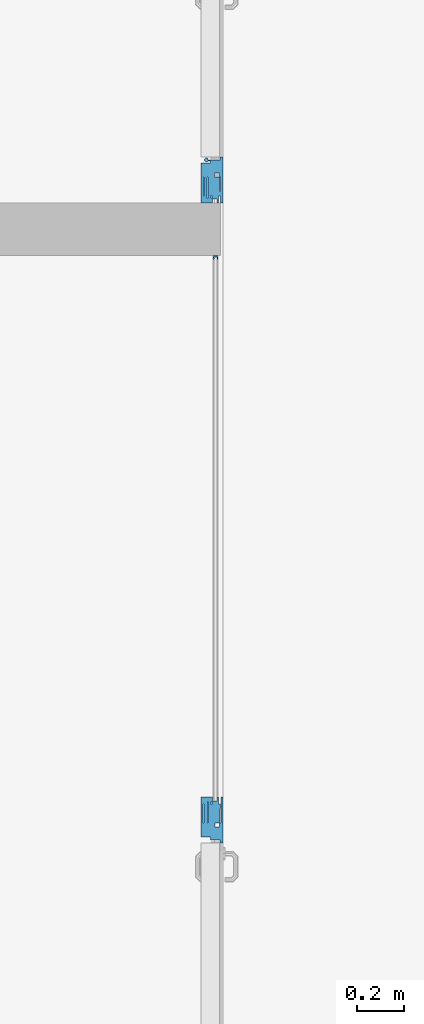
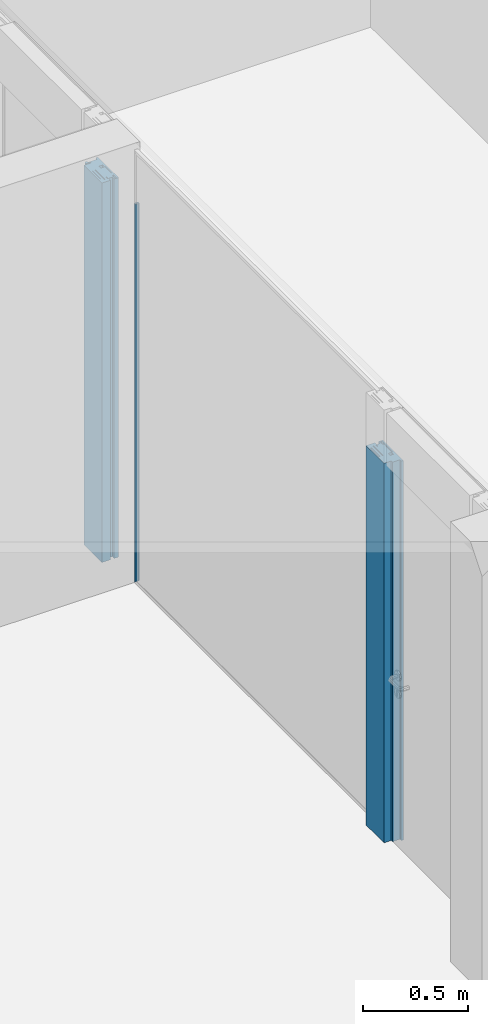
# One storey, part 8 of 79: 3 members, 2 elements without a shape of their own.
"""IFC2X3 building model written with IfcOpenShell, lengths in millimetres."""

import ifcopenshell
import ifcopenshell.guid

model = None  # the IFC model being written
_history = None  # IfcOwnerHistory: only IFC2X3 demands one
_inside = {}  # id of a spatial element -> (the spatial element, [elements in it])
_under = {}  # id of a project, library or spatial element -> (it, [spatial elements below it])
_declared = {}  # id of a project -> (the project, [libraries it declares])
_typed = {}  # id of a type object -> (the type object, [elements of that type])
_made_of = {}  # id of a material, layer set ... -> (it, [elements and type objects made of it])


def new_model(schema):
    """Start an empty IFC model of exactly this schema.

    Asked for "IFC4X3", IfcOpenShell would pick the latest addendum, in which some entities
    have other attributes; the version numbers below select the first issue.
    IFC2X3 requires an IfcOwnerHistory on every rooted entity: one is made here for all.
    """
    global model, _history
    if schema == "IFC4X3":
        model = ifcopenshell.file(schema_version=(4, 3, 0, 0))
    else:
        model = ifcopenshell.file(schema=schema)
    _inside.clear()
    _under.clear()
    _declared.clear()
    _typed.clear()
    _made_of.clear()
    _history = None
    if model.schema == "IFC2X3":
        org = make("IfcOrganization", Name="unknown")
        user = make(
            "IfcPersonAndOrganization",
            ThePerson=make("IfcPerson", FamilyName="unknown"),
            TheOrganization=org,
        )
        app = make(
            "IfcApplication",
            ApplicationDeveloper=org,
            Version="unknown",
            ApplicationFullName="unknown",
            ApplicationIdentifier="unknown",
        )
        _history = make(
            "IfcOwnerHistory",
            OwningUser=user,
            OwningApplication=app,
            ChangeAction="ADDED",
            CreationDate=0,
        )
    return model


def make(cls, **values):
    """One entity of the class cls with the attributes given. An attribute that is None is left unset."""
    return model.create_entity(
        cls, **{name: value for name, value in values.items() if value is not None}
    )


def entity(cls, *values):
    """Any entity or typed value of the class cls, its attributes in the order of the schema. None: left unset."""
    e = model.create_entity(cls)
    for i, value in enumerate(values):
        if value is not None:
            e[i] = value
    return e


def rooted(cls, **values):
    """An entity with a GlobalId (a new one), such as an element, a storey or a relation."""
    return make(cls, GlobalId=ifcopenshell.guid.new(), OwnerHistory=_history, **values)


def si_unit(unit_type, name, prefix=None):
    """IfcSIUnit, for example si_unit("LENGTHUNIT", "METRE", prefix="MILLI")."""
    return make("IfcSIUnit", UnitType=unit_type, Prefix=prefix, Name=name)


def converted_unit(unit_type, name, factor, base, dimensions=None, offset=None):
    """IfcConversionBasedUnit, such as the inch: factor (a typed value) times the base unit."""
    return make(
        "IfcConversionBasedUnit"
        if offset is None
        else "IfcConversionBasedUnitWithOffset",
        ConversionOffset=offset,
        Dimensions=None
        if dimensions is None
        else entity("IfcDimensionalExponents", *dimensions),
        UnitType=unit_type,
        Name=name,
        ConversionFactor=make(
            "IfcMeasureWithUnit", ValueComponent=factor, UnitComponent=base
        ),
    )


def derived_unit(unit_type, elements):
    """IfcDerivedUnit: a product of units, each with its exponent."""
    return make(
        "IfcDerivedUnit",
        Elements=[
            make("IfcDerivedUnitElement", Unit=unit, Exponent=power)
            for unit, power in elements
        ],
        UnitType=unit_type,
    )


def money_unit(currency):
    """IfcMonetaryUnit."""
    return make("IfcMonetaryUnit", Currency=currency)


def assignment(units):
    """IfcUnitAssignment: the units of a project."""
    return None if units is None else make("IfcUnitAssignment", Units=units)


def point(xyz):
    """IfcCartesianPoint."""
    return None if xyz is None else make("IfcCartesianPoint", Coordinates=xyz)


def direction(xyz):
    """IfcDirection."""
    return None if xyz is None else make("IfcDirection", DirectionRatios=xyz)


def frame(location, z_axis=None, x_axis=None):
    """IfcAxis2Placement3D, a coordinate frame: its origin and axes. An axis left out is left unset."""
    return make(
        "IfcAxis2Placement3D",
        Location=point(location),
        Axis=direction(z_axis),
        RefDirection=direction(x_axis),
    )


def origin_with_axes():
    """The frame at (0, 0, 0) with the z axis (0, 0, 1) and the x axis (1, 0, 0) written out."""
    return frame((0.0, 0.0, 0.0), z_axis=(0.0, 0.0, 1.0), x_axis=(1.0, 0.0, 0.0))


def place(relative_to, where):
    """IfcLocalPlacement: puts the frame where relative to a parent placement (None: the world)."""
    return make(
        "IfcLocalPlacement", PlacementRelTo=relative_to, RelativePlacement=where
    )


def context(
    kind, dimensions, precision=None, world=None, true_north=None, identifier=None
):
    """IfcGeometricRepresentationContext, for example the 3D "Model" context."""
    return make(
        "IfcGeometricRepresentationContext",
        ContextIdentifier=identifier,
        ContextType=kind,
        CoordinateSpaceDimension=dimensions,
        Precision=precision,
        WorldCoordinateSystem=world,
        TrueNorth=true_north,
    )


def subcontext(parent, identifier, kind, view, scale=None):
    """IfcGeometricRepresentationSubContext, for example "Body" below "Model"."""
    return make(
        "IfcGeometricRepresentationSubContext",
        ContextIdentifier=identifier,
        ContextType=kind,
        ParentContext=parent,
        TargetScale=scale,
        TargetView=view,
    )


def project(units=None, contexts=None):
    """IfcProject with its units and contexts."""
    return rooted(
        "IfcProject",
        Name="project",
        RepresentationContexts=contexts,
        UnitsInContext=assignment(units),
    )


def spatial(cls, under=None, at=None, **own):
    """A site, building, storey or space (cls), placed at a placement, below another one or the project."""
    s = rooted(cls, ObjectPlacement=at, **own)
    if under is not None:
        _under.setdefault(under.id(), (under, []))[1].append(s)
    return s


def faces_of(points, faces, orient=None, outer=None):
    """IfcFace entities. A face is a list of loops; a loop is a list of indices into points, from 0.

    orient and outer hold one flag for each loop. By default every Orientation is true, the
    first loop of a face is its IfcFaceOuterBound and the others are IfcFaceBound.
    """
    made = []
    for i, loops in enumerate(faces):
        bounds = []
        for j, loop in enumerate(loops):
            is_outer = j == 0 if outer is None else outer[i][j]
            bounds.append(
                make(
                    "IfcFaceOuterBound" if is_outer else "IfcFaceBound",
                    Bound=make("IfcPolyLoop", Polygon=[points[k] for k in loop]),
                    Orientation=True if orient is None else orient[i][j],
                )
            )
        made.append(make("IfcFace", Bounds=bounds))
    return made


def faceted_brep(points, faces, orient=None, outer=None, voids=None):
    """IfcFacetedBrep: a solid bounded by flat faces; with voids (closed shells), ...WithVoids."""
    shared = [point(p) for p in points]
    hull = make("IfcClosedShell", CfsFaces=faces_of(shared, faces, orient, outer))
    if voids is None:
        return make("IfcFacetedBrep", Outer=hull)
    return make(
        "IfcFacetedBrepWithVoids",
        Outer=hull,
        Voids=[
            make(cls, CfsFaces=faces_of(shared, fs, o, b)) for cls, fs, o, b in voids
        ],
    )


def shape(context_of_items, identifier, shape_type, items):
    """IfcShapeRepresentation: the items that make up one representation, for example the "Body"."""
    return make(
        "IfcShapeRepresentation",
        ContextOfItems=context_of_items,
        RepresentationIdentifier=identifier,
        RepresentationType=shape_type,
        Items=items,
    )


def source(mapping_origin, context_of_items, identifier, shape_type, items):
    """IfcRepresentationMap: a shape defined once, which mapped items show again and again."""
    return make(
        "IfcRepresentationMap",
        MappingOrigin=mapping_origin,
        MappedRepresentation=shape(context_of_items, identifier, shape_type, items),
    )


def transform(
    local_origin,
    x_axis=None,
    y_axis=None,
    z_axis=None,
    scale=None,
    scale2=None,
    scale3=None,
    uniform=True,
):
    """IfcCartesianTransformationOperator3D, or its non-uniform kind. x_axis, y_axis, z_axis: its Axis1, 2, 3."""
    if uniform:
        return make(
            "IfcCartesianTransformationOperator3D",
            Axis1=direction(x_axis),
            Axis2=direction(y_axis),
            LocalOrigin=point(local_origin),
            Scale=scale,
            Axis3=direction(z_axis),
        )
    return make(
        "IfcCartesianTransformationOperator3DnonUniform",
        Axis1=direction(x_axis),
        Axis2=direction(y_axis),
        LocalOrigin=point(local_origin),
        Scale=scale,
        Axis3=direction(z_axis),
        Scale2=scale2,
        Scale3=scale3,
    )


def mapped(mapping_source, mapping_target):
    """IfcMappedItem: shows the shape of a source again, moved by a transform."""
    return make(
        "IfcMappedItem", MappingSource=mapping_source, MappingTarget=mapping_target
    )


def material(Name=None, Category=None):
    """IfcMaterial."""
    return make("IfcMaterial", Name=Name, Category=Category)


def material_list(materials):
    """IfcMaterialList."""
    return make("IfcMaterialList", Materials=materials)


def made_of(thing, what):
    """Note that an element or type object is made of a material, layer set ...; save() writes the relation."""
    if what is not None:
        _made_of.setdefault(what.id(), (what, []))[1].append(thing)
    return thing


def type_object(cls, material=None, **own):
    """A type object (cls), such as IfcWallType, which elements share."""
    return made_of(rooted(cls, **own), material)


def element(
    cls,
    number,
    at=None,
    inside=None,
    cuts=None,
    type_object=None,
    material=None,
    context=None,
    identifier="Body",
    shape_type=None,
    held_by="IfcProductDefinitionShape",
    body=None,
    shapes=None,
    **own,
):
    """One element of the class cls, such as IfcWall. Its Tag is "e" and its number.

    at: its placement. inside: the storey or other place that contains it. cuts: it is an
    opening in that element (IfcRelVoidsElement). A single representation is given by context,
    identifier, shape_type and body (its items); several are given by shapes. held_by: the class
    of the entity that holds the representations. save() writes the other relations.
    """
    e = rooted(cls, Tag="e%d" % number, ObjectPlacement=at, **own)
    if body is not None:
        shapes = [shape(context, identifier, shape_type, body)]
    if shapes is not None:
        e.Representation = make(held_by, Representations=shapes)
    if inside is not None:
        _inside.setdefault(inside.id(), (inside, []))[1].append(e)
    if cuts is not None:
        rooted(
            "IfcRelVoidsElement", RelatingBuildingElement=cuts, RelatedOpeningElement=e
        )
    if type_object is not None:
        _typed.setdefault(type_object.id(), (type_object, []))[1].append(e)
    return made_of(e, material)


def aggregate(whole, parts):
    """IfcRelAggregates: a whole, such as a stair, and the parts it consists of."""
    return rooted("IfcRelAggregates", RelatingObject=whole, RelatedObjects=parts)


def save(model, path):
    """Write the relations noted so far, then the file.

    IfcRelAggregates (storeys below a building ...), IfcRelContainedInSpatialStructure (elements
    in a storey), IfcRelDefinesByType, IfcRelAssociatesMaterial and IfcRelDeclares: one each for
    every whole, place, type object, material and project.
    """
    for whole, parts in _under.values():
        aggregate(whole, parts)
    for where, things in _inside.values():
        rooted(
            "IfcRelContainedInSpatialStructure",
            RelatedElements=things,
            RelatingStructure=where,
        )
    for kind, things in _typed.values():
        rooted("IfcRelDefinesByType", RelatedObjects=things, RelatingType=kind)
    for what, things in _made_of.values():
        rooted("IfcRelAssociatesMaterial", RelatedObjects=things, RelatingMaterial=what)
    for by, libraries in _declared.values():
        rooted("IfcRelDeclares", RelatingContext=by, RelatedDefinitions=libraries)
    model.write(path)


model = new_model("IFC2X3")

# Units and contexts
model_context = context("Model", 3, precision=0.01, world=origin_with_axes(), true_north=direction((0.0, 1.0)))
body_context = subcontext(model_context, "Body", "Model", "MODEL_VIEW")
ifc_project = project(units=[si_unit("LENGTHUNIT", "METRE", prefix="MILLI"), si_unit("AREAUNIT", "SQUARE_METRE"), si_unit("VOLUMEUNIT", "CUBIC_METRE"), converted_unit("PLANEANGLEUNIT", "DEGREE", entity("IfcPlaneAngleMeasure", 0.0174532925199), si_unit("PLANEANGLEUNIT", "RADIAN"), dimensions=[0, 0, 0, 0, 0, 0, 0]), si_unit("SOLIDANGLEUNIT", "STERADIAN"), money_unit("EUR"), converted_unit("TIMEUNIT", "Year", entity("IfcTimeMeasure", 31556926.0), si_unit("TIMEUNIT", "SECOND"), dimensions=[0, 0, 1, 0, 0, 0, 0]), si_unit("MASSUNIT", "GRAM", prefix="KILO"), si_unit("THERMODYNAMICTEMPERATUREUNIT", "DEGREE_CELSIUS"), si_unit("LUMINOUSINTENSITYUNIT", "LUMEN"), si_unit("ENERGYUNIT", "JOULE", prefix="MEGA"), derived_unit("THERMALCONDUCTANCEUNIT", [(si_unit("POWERUNIT", "WATT"), 1), (si_unit("LENGTHUNIT", "METRE"), -1), (si_unit("THERMODYNAMICTEMPERATUREUNIT", "KELVIN"), -1)]), derived_unit("SPECIFICHEATCAPACITYUNIT", [(si_unit("ENERGYUNIT", "JOULE"), 1), (si_unit("MASSUNIT", "GRAM", prefix="KILO"), -1), (si_unit("THERMODYNAMICTEMPERATUREUNIT", "KELVIN"), -1)]), derived_unit("MASSDENSITYUNIT", [(si_unit("MASSUNIT", "GRAM", prefix="KILO"), 1), (si_unit("VOLUMEUNIT", "CUBIC_METRE"), -1)])], contexts=[model_context])

# Site, building, storey
site_placement = place(None, origin_with_axes())
site = spatial("IfcSite", under=ifc_project, at=site_placement, Name="L.Koidula tn 11b", CompositionType="ELEMENT")
building_placement = place(site_placement, origin_with_axes())
building = spatial("IfcBuilding", under=site, at=building_placement, Name="Rakvere Riigigümnaasium", CompositionType="ELEMENT")
storey_placement = place(building_placement, frame((0.0, 0.0, 3720.0), z_axis=(0.0, 0.0, 1.0), x_axis=(1.0, 0.0, 0.0)))
storey = spatial("IfcBuildingStorey", under=building, at=storey_placement, Name="2.korrus +3,72", CompositionType="ELEMENT", Elevation=3720.0)

# Curtain wall, member
curtain_wall_type = type_object("IfcCurtainWallType", Name="Curtain Wall Type", PredefinedType="NOTDEFINED")
curtain_wall_1_placement = place(storey_placement, frame((41130.915445, 28609.9592257, 0.0), z_axis=(0.0, 0.0, 1.0), x_axis=(1.0, 0.0, 0.0)))
curtain_wall_1 = element("IfcCurtainWall", 1, at=curtain_wall_1_placement, inside=storey, type_object=curtain_wall_type, Name="SKLF-16")
ifc_material_1 = material(Name="Puit")
ifc_material_2 = material(Name="Klaasvill")
ifc_material_3 = material(Name="MDF")
ifc_material_4 = material(Name="Alumiiniumprofiil")
ifc_material_5 = material(Name="Teras")
ifc_material_list_1 = material_list([ifc_material_1, ifc_material_2, ifc_material_3, ifc_material_4, ifc_material_5])
member_type_1 = type_object("IfcMemberType", Name="Siseklaasfassaad - Ukseraam hing- klaasita-2 195 x 29", PredefinedType="MULLION")
shared_shape_1 = source(origin_with_axes(), body_context, "Body", "Brep", [
    faceted_brep([(139.859682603, -15.116905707, 0.0), (181.717061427, -15.116905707, 0.0), (181.717061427, -15.116905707, 2200.0), (139.859682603, -15.116905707, 2200.0), (139.859682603, 50.9999990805, 0.0), (169.859682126, 50.9999990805, 0.0), (169.859683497, 23.9999989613, 0.0), (178.395629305, 23.9999989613, 0.0), (178.395629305, -8.00000062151, 0.0), (181.855103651, -8.00000062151, 0.0), (181.855103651, -15.116905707, 0.0), (181.855103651, -15.116905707, 2200.0), (181.855103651, -8.00000062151, 2200.0), (178.395629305, -8.00000062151, 2200.0), (178.395629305, 23.9999989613, 2200.0), (169.859683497, 23.9999989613, 2200.0), (169.859682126, 50.9999990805, 2200.0), (139.859682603, 50.9999990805, 2200.0)], [[[0, 1, 2, 3]], [[0, 4, 5, 6, 7, 8, 9, 10, 1]], [[1, 10, 11, 2]], [[3, 2, 11, 12, 13, 14, 15, 16, 17]], [[4, 0, 3, 17]], [[5, 4, 17, 16]], [[6, 5, 16, 15]], [[7, 6, 15, 14]], [[8, 7, 14, 13]], [[9, 8, 13, 12]], [[10, 9, 12, 11]]]),
    faceted_brep([(31.9999999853, 20.4981590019, 0.0), (31.9999999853, 17.3999984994, 0.0), (31.9999999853, 17.3999984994, 2200.0), (31.9999999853, 20.4981590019, 2200.0), (109.856776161, 20.498157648, 0.0), (109.856777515, 5.39999855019, 0.0), (109.856777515, -15.0000008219, 0.0), (109.856777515, -16.9999999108, 0.0), (50.0000012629, -17.0000026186, 0.0), (31.9999999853, -16.9999999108, 0.0), (31.9999999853, -10.9998686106, 0.0), (31.9999999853, -4.99999996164, 0.0), (31.9999999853, -4.99999996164, 2200.0), (31.9999999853, -10.9998686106, 2200.0), (31.9999999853, -16.9999999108, 2200.0), (50.0000012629, -17.0000026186, 2200.0), (109.856777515, -16.9999999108, 2200.0), (109.856777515, -15.0000008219, 2200.0), (109.856777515, 5.39999855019, 2200.0), (109.856776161, 20.498157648, 2200.0)], [[[0, 1, 2, 3]], [[0, 4, 5, 6, 7, 8, 9, 10, 11, 1]], [[1, 11, 12, 2]], [[3, 2, 12, 13, 14, 15, 16, 17, 18, 19]], [[4, 0, 3, 19]], [[5, 4, 19, 18]], [[6, 5, 18, 17]], [[7, 6, 17, 16]], [[8, 7, 16, 15]], [[9, 8, 15, 14]], [[10, 9, 14, 13]], [[11, 10, 13, 12]]]),
    faceted_brep([(2.00000016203, -18.9999768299, 0.0), (2.00000016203, -28.9999775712, 0.0), (2.00000016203, -28.9999775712, 2200.0), (2.00000016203, -18.9999768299, 2200.0), (29.9999993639, -18.9999998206, 0.0), (31.9999995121, -18.9999998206, 0.0), (50.0000008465, -18.9999998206, 0.0), (109.856776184, -18.9999797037, 0.0), (192.859682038, -18.9999768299, 0.0), (192.859682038, -28.9999775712, 0.0), (192.859682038, -28.9999775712, 2200.0), (192.859682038, -18.9999768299, 2200.0), (109.856776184, -18.9999797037, 2200.0), (50.0000008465, -18.9999998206, 2200.0), (31.9999995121, -18.9999998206, 2200.0), (29.9999993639, -18.9999998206, 2200.0)], [[[0, 1, 2, 3]], [[0, 4, 5, 6, 7, 8, 9, 1]], [[1, 9, 10, 2]], [[3, 2, 10, 11, 12, 13, 14, 15]], [[4, 0, 3, 15]], [[5, 4, 15, 14]], [[6, 5, 14, 13]], [[7, 6, 13, 12]], [[8, 7, 12, 11]], [[9, 8, 11, 10]]]),
    faceted_brep([(167.859682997, 63.0000007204, 0.0), (1.99999972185, 62.9999978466, 0.0), (1.99999972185, 62.9999978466, 2200.0), (167.859682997, 63.0000007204, 2200.0), (167.859682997, 52.9999999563, 0.0), (139.859683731, 52.9999999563, 0.0), (109.85677599, 52.9999999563, 0.0), (29.9999989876, 52.9999970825, 0.0), (18.6712801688, 52.9999970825, 0.0), (1.99999972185, 52.9999999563, 0.0), (1.99999972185, 52.9999999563, 2200.0), (18.6712801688, 52.9999970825, 2200.0), (29.9999989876, 52.9999970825, 2200.0), (109.85677599, 52.9999999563, 2200.0), (139.859683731, 52.9999999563, 2200.0), (167.859682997, 52.9999999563, 2200.0)], [[[0, 1, 2, 3]], [[0, 4, 5, 6, 7, 8, 9, 1]], [[1, 9, 10, 2]], [[3, 2, 10, 11, 12, 13, 14, 15]], [[4, 0, 3, 15]], [[5, 4, 15, 14]], [[6, 5, 14, 13]], [[7, 6, 13, 12]], [[8, 7, 12, 11]], [[9, 8, 11, 10]]]),
    faceted_brep([(18.9999998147, 33.492630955, 0.0), (18.9999998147, 20.5001075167, 0.0), (18.9999998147, 20.5001075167, 2200.0), (18.9999998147, 33.492630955, 2200.0), (109.856776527, 33.4906812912, 0.0), (109.856776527, 20.4981578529, 0.0), (31.9999999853, 20.4981590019, 0.0), (31.9999999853, 20.4981590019, 2200.0), (109.856776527, 20.4981578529, 2200.0), (109.856776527, 33.4906812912, 2200.0)], [[[0, 1, 2, 3]], [[0, 4, 5, 6, 1]], [[1, 6, 7, 2]], [[3, 2, 7, 8, 9]], [[4, 0, 3, 9]], [[5, 4, 9, 8]], [[6, 5, 8, 7]]]),
    faceted_brep([(109.854989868, 49.9999988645, 0.0), (19.0000000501, 50.0001085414, 0.0), (19.0000000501, 50.0001085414, 2200.0), (109.854989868, 49.9999988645, 2200.0), (109.854989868, 36.9999990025, 0.0), (19.0000000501, 37.0001070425, 0.0), (19.0000000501, 37.0001070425, 2200.0), (109.854989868, 36.9999990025, 2200.0)], [[[0, 1, 2, 3]], [[0, 4, 5, 1]], [[1, 5, 6, 2]], [[3, 2, 6, 7]], [[4, 0, 3, 7]], [[5, 4, 7, 6]]]),
    faceted_brep([(109.856776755, 52.9999991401, 0.0), (109.854989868, 49.9999988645, 0.0), (109.854989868, 49.9999988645, 2200.0), (109.856776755, 52.9999991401, 2200.0), (139.859682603, 52.9999991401, 0.0), (167.859682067, 52.9999991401, 0.0), (167.859682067, 62.9999994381, 0.0), (169.859682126, 62.9999994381, 0.0), (169.859682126, 54.9999991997, 0.0), (169.859682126, 50.9999990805, 0.0), (139.859682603, 50.9999990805, 0.0), (139.859682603, -15.116905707, 0.0), (181.717061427, -15.116905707, 0.0), (181.717061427, -17.0000002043, 0.0), (194.859682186, -17.0000002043, 0.0), (194.859682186, -20.0740464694, 0.0), (194.859682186, -29.0000005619, 0.0), (192.859683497, -29.0000005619, 0.0), (192.859683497, -18.9999783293, 0.0), (109.856776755, -18.9999783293, 0.0), (109.856777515, -16.9999999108, 0.0), (109.856776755, -15.0000001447, 0.0), (126.859682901, -15.0000001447, 0.0), (126.859682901, 5.39999991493, 0.0), (109.856776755, 5.39999991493, 0.0), (109.856776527, 20.4981578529, 0.0), (109.856776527, 33.4906812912, 0.0), (109.854989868, 36.9999990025, 0.0), (109.854989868, 36.9999990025, 2200.0), (109.856776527, 33.4906812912, 2200.0), (109.856776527, 20.4981578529, 2200.0), (109.856776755, 5.39999991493, 2200.0), (126.859682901, 5.39999991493, 2200.0), (126.859682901, -15.0000001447, 2200.0), (109.856776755, -15.0000001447, 2200.0), (109.856777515, -16.9999999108, 2200.0), (109.856776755, -18.9999783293, 2200.0), (192.859683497, -18.9999783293, 2200.0), (192.859683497, -29.0000005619, 2200.0), (194.859682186, -29.0000005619, 2200.0), (194.859682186, -20.0740464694, 2200.0), (194.859682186, -17.0000002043, 2200.0), (181.717061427, -17.0000002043, 2200.0), (181.717061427, -15.116905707, 2200.0), (139.859682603, -15.116905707, 2200.0), (139.859682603, 50.9999990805, 2200.0), (169.859682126, 50.9999990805, 2200.0), (169.859682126, 54.9999991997, 2200.0), (169.859682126, 62.9999994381, 2200.0), (167.859682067, 62.9999994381, 2200.0), (167.859682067, 52.9999991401, 2200.0), (139.859682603, 52.9999991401, 2200.0)], [[[0, 1, 2, 3]], [[0, 4, 5, 6, 7, 8, 9, 10, 11, 12, 13, 14, 15, 16, 17, 18, 19, 20, 21, 22, 23, 24, 25, 26, 27, 1]], [[1, 27, 28, 2]], [[3, 2, 28, 29, 30, 31, 32, 33, 34, 35, 36, 37, 38, 39, 40, 41, 42, 43, 44, 45, 46, 47, 48, 49, 50, 51]], [[4, 0, 3, 51]], [[5, 4, 51, 50]], [[6, 5, 50, 49]], [[7, 6, 49, 48]], [[8, 7, 48, 47]], [[9, 8, 47, 46]], [[10, 9, 46, 45]], [[11, 10, 45, 44]], [[12, 11, 44, 43]], [[13, 12, 43, 42]], [[14, 13, 42, 41]], [[15, 14, 41, 40]], [[16, 15, 40, 39]], [[17, 16, 39, 38]], [[18, 17, 38, 37]], [[19, 18, 37, 36]], [[20, 19, 36, 35]], [[21, 20, 35, 34]], [[22, 21, 34, 33]], [[23, 22, 33, 32]], [[24, 23, 32, 31]], [[25, 24, 31, 30]], [[26, 25, 30, 29]], [[27, 26, 29, 28]]]),
    faceted_brep([(0.0, 62.9999994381, 0.0), (0.0, 15.3999992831, 0.0), (0.0, 15.3999992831, 2200.0), (0.0, 62.9999994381, 2200.0), (1.99999958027, 62.9999994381, 0.0), (2.00000095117, 52.999998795, 0.0), (18.6712817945, 52.999998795, 0.0), (29.9999991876, 52.999998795, 0.0), (29.9999991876, 50.0001084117, 0.0), (19.0000008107, 50.0001084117, 0.0), (19.0000000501, 37.0001070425, 0.0), (18.9999998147, 33.492630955, 0.0), (18.9999998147, 20.5001075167, 0.0), (19.0000008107, 17.3999988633, 0.0), (32.0000001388, 17.3999988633, 0.0), (32.0000001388, -5.0, 0.0), (32.0000001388, -10.9998685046, 0.0), (32.0000001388, -17.0000015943, 0.0), (50.0000004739, -17.0000015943, 0.0), (50.0000004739, -18.9999998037, 0.0), (32.0000001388, -18.9999998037, 0.0), (30.0000005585, -18.9999998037, 0.0), (30.0000005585, -17.0000015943, 0.0), (30.0000005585, -10.9998685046, 0.0), (2.00000095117, -10.9998685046, 0.0), (2.00000016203, -18.9999768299, 0.0), (2.00000095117, -28.9999785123, 0.0), (0.0, -28.9999785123, 0.0), (0.0, -5.0, 0.0), (2.00000095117, -5.0, 0.0), (16.9999998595, -5.0, 0.0), (16.9999998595, 15.3999992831, 0.0), (16.9999998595, 15.3999992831, 2200.0), (16.9999998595, -5.0, 2200.0), (2.00000095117, -5.0, 2200.0), (0.0, -5.0, 2200.0), (0.0, -28.9999785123, 2200.0), (2.00000095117, -28.9999785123, 2200.0), (2.00000016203, -18.9999768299, 2200.0), (2.00000095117, -10.9998685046, 2200.0), (30.0000005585, -10.9998685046, 2200.0), (30.0000005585, -17.0000015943, 2200.0), (30.0000005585, -18.9999998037, 2200.0), (32.0000001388, -18.9999998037, 2200.0), (50.0000004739, -18.9999998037, 2200.0), (50.0000004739, -17.0000015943, 2200.0), (32.0000001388, -17.0000015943, 2200.0), (32.0000001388, -10.9998685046, 2200.0), (32.0000001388, -5.0, 2200.0), (32.0000001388, 17.3999988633, 2200.0), (19.0000008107, 17.3999988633, 2200.0), (18.9999998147, 20.5001075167, 2200.0), (18.9999998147, 33.492630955, 2200.0), (19.0000000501, 37.0001070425, 2200.0), (19.0000008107, 50.0001084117, 2200.0), (29.9999991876, 50.0001084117, 2200.0), (29.9999991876, 52.999998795, 2200.0), (18.6712817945, 52.999998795, 2200.0), (2.00000095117, 52.999998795, 2200.0), (1.99999958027, 62.9999994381, 2200.0)], [[[0, 1, 2, 3]], [[0, 4, 5, 6, 7, 8, 9, 10, 11, 12, 13, 14, 15, 16, 17, 18, 19, 20, 21, 22, 23, 24, 25, 26, 27, 28, 29, 30, 31, 1]], [[1, 31, 32, 2]], [[3, 2, 32, 33, 34, 35, 36, 37, 38, 39, 40, 41, 42, 43, 44, 45, 46, 47, 48, 49, 50, 51, 52, 53, 54, 55, 56, 57, 58, 59]], [[4, 0, 3, 59]], [[5, 4, 59, 58]], [[6, 5, 58, 57]], [[7, 6, 57, 56]], [[8, 7, 56, 55]], [[9, 8, 55, 54]], [[10, 9, 54, 53]], [[11, 10, 53, 52]], [[12, 11, 52, 51]], [[13, 12, 51, 50]], [[14, 13, 50, 49]], [[15, 14, 49, 48]], [[16, 15, 48, 47]], [[17, 16, 47, 46]], [[18, 17, 46, 45]], [[19, 18, 45, 44]], [[20, 19, 44, 43]], [[21, 20, 43, 42]], [[22, 21, 42, 41]], [[23, 22, 41, 40]], [[24, 23, 40, 39]], [[25, 24, 39, 38]], [[26, 25, 38, 37]], [[27, 26, 37, 36]], [[28, 27, 36, 35]], [[29, 28, 35, 34]], [[30, 29, 34, 33]], [[31, 30, 33, 32]]]),
    faceted_brep([(191.287294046, 42.0314837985, 0.0), (189.304437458, 46.4929115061, 0.0), (189.304437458, 46.4929115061, 2200.0), (191.287294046, 42.0314837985, 2200.0), (191.287294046, 39.5529134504, 0.0), (190.543723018, 37.0712444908, 0.0), (188.808723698, 35.0883879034, 0.0), (186.82586711, 33.6012450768, 0.0), (184.34729599, 32.8576740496, 0.0), (181.86562703, 33.1055313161, 0.0), (181.658588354, 33.5817206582, 0.0), (181.86562703, 32.1141030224, 0.0), (181.855103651, -8.00000062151, 0.0), (178.395628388, -8.00000056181, 0.0), (178.395629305, 23.9999989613, 0.0), (178.395628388, 31.1195761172, 0.0), (178.147771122, 33.1055313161, 0.0), (177.404200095, 34.840530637, 0.0), (176.164914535, 37.3221995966, 0.0), (175.421343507, 39.7976721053, 0.0), (175.421343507, 42.279341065, 0.0), (176.164914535, 44.7579114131, 0.0), (177.652057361, 46.7407680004, 0.0), (179.882770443, 48.227910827, 0.0), (182.364439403, 48.9714818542, 0.0), (184.843010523, 48.9714818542, 0.0), (187.073723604, 47.9800535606, 0.0), (187.073723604, 47.9800535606, 2200.0), (184.843010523, 48.9714818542, 2200.0), (182.364439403, 48.9714818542, 2200.0), (179.882770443, 48.227910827, 2200.0), (177.652057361, 46.7407680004, 2200.0), (176.164914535, 44.7579114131, 2200.0), (175.421343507, 42.279341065, 2200.0), (175.421343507, 39.7976721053, 2200.0), (176.164914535, 37.3221995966, 2200.0), (177.404200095, 34.840530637, 2200.0), (178.147771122, 33.1055313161, 2200.0), (178.395628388, 31.1195761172, 2200.0), (178.395629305, 23.9999989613, 2200.0), (178.395628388, -8.00000056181, 2200.0), (181.855103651, -8.00000062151, 2200.0), (181.86562703, 32.1141030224, 2200.0), (181.658588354, 33.5817206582, 2200.0), (181.86562703, 33.1055313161, 2200.0), (184.34729599, 32.8576740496, 2200.0), (186.82586711, 33.6012450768, 2200.0), (188.808723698, 35.0883879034, 2200.0), (190.543723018, 37.0712444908, 2200.0), (191.287294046, 39.5529134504, 2200.0)], [[[0, 1, 2, 3]], [[0, 4, 5, 6, 7, 8, 9, 10, 11, 12, 13, 14, 15, 16, 17, 18, 19, 20, 21, 22, 23, 24, 25, 26, 1]], [[1, 26, 27, 2]], [[3, 2, 27, 28, 29, 30, 31, 32, 33, 34, 35, 36, 37, 38, 39, 40, 41, 42, 43, 44, 45, 46, 47, 48, 49]], [[4, 0, 3, 49]], [[5, 4, 49, 48]], [[6, 5, 48, 47]], [[7, 6, 47, 46]], [[8, 7, 46, 45]], [[9, 8, 45, 44]], [[10, 9, 44, 43]], [[11, 10, 43, 42]], [[12, 11, 42, 41]], [[13, 12, 41, 40]], [[14, 13, 40, 39]], [[15, 14, 39, 38]], [[16, 15, 38, 37]], [[17, 16, 37, 36]], [[18, 17, 36, 35]], [[19, 18, 35, 34]], [[20, 19, 34, 33]], [[21, 20, 33, 32]], [[22, 21, 32, 31]], [[23, 22, 31, 30]], [[24, 23, 30, 29]], [[25, 24, 29, 28]], [[26, 25, 28, 27]]]),
])
member_1_placement = place(curtain_wall_1_placement, frame((-0.021911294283, -519.999999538, 0.0), z_axis=(0.0, 0.0, 1.0), x_axis=(-4.21371043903e-05, -0.999999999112, 0.0)))
member_1 = element("IfcMember", 2, at=member_1_placement, type_object=member_type_1, material=ifc_material_list_1, Name="PV-SKLF-02-raam", ObjectType="MULLION", context=body_context, shape_type="MappedRepresentation", body=[
    mapped(shared_shape_1, transform((0.0, 0.0, 0.0), x_axis=(-1.0, 0.0, 0.0), y_axis=(0.0, -1.0, 0.0), z_axis=(0.0, 0.0, 1.0))),
])
aggregate(curtain_wall_1, [member_1])

# Curtain wall, members
curtain_wall_2_placement = place(storey_placement, frame((41130.915445, 24920.4555468, 0.0), z_axis=(0.0, 0.0, 1.0), x_axis=(1.0, 0.0, 0.0)))
curtain_wall_2 = element("IfcCurtainWall", 3, at=curtain_wall_2_placement, inside=storey, type_object=curtain_wall_type, Name="SKLF-15")
ifc_material_list_2 = material_list([ifc_material_2, ifc_material_4])
member_type_2 = type_object("IfcMemberType", Name="Boundary Frame 17 x 1", PredefinedType="MULLION")
shared_shape_2 = source(origin_with_axes(), body_context, "Body", "Brep", [
    faceted_brep([(-8.35001937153, -5.0, 8.35001937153), (-2.00001937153, -5.0, 2.00001937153), (-2.00001937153, -5.0, 2200.0), (-8.35001937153, -5.0, 2200.0), (-8.35001937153, 9.01614452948, 8.35001937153), (-2.00001937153, 9.01614452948, 2.00001937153), (-2.00001937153, 9.01614452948, 2200.0), (-8.35001937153, 9.01614452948, 2200.0)], [[[0, 1, 2, 3]], [[1, 0, 4, 5]], [[1, 5, 6, 2]], [[2, 6, 7, 3]], [[4, 0, 3, 7]], [[5, 4, 7, 6]]]),
    faceted_brep([(-12.004489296, 7.03075035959, 12.004489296), (-11.987414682, 9.01614444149, 11.987414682), (-11.987414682, 9.01614444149, 2200.0), (-12.004489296, 7.03075035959, 2200.0), (-12.742237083, 6.29300257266, 12.742237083), (-13.7500193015, 6.02296814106, 13.7500193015), (-14.75780152, 6.29300257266, 14.75780152), (-15.4955493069, 7.03075035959, 15.4955493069), (-15.7655837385, 8.03853257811, 15.7655837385), (-15.5126239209, 9.01614444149, 15.5126239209), (-15.5126239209, 9.01614444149, 2200.0), (-15.7655837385, 8.03853257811, 2200.0), (-15.4955493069, 7.03075035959, 2200.0), (-14.75780152, 6.29300257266, 2200.0), (-13.7500193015, 6.02296814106, 2200.0), (-12.742237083, 6.29300257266, 2200.0)], [[[0, 1, 2, 3]], [[1, 0, 4, 5, 6, 7, 8, 9]], [[1, 9, 10, 2]], [[2, 10, 11, 12, 13, 14, 15, 3]], [[4, 0, 3, 15]], [[5, 4, 15, 14]], [[6, 5, 14, 13]], [[7, 6, 13, 12]], [[8, 7, 12, 11]], [[9, 8, 11, 10]]]),
    faceted_brep([(-17.0000193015, -8.0, 17.0000193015), (0.0, -8.0, 0.0), (0.0, -8.0, 2200.0), (-17.0000193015, -8.0, 2200.0), (-17.0000193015, -5.0, 17.0000193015), (-8.35001937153, -5.0, 8.35001937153), (-2.00001930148, -5.0, 2.00001930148), (-2.00001930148, 9.01614444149, 2.00001930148), (-8.35001937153, 9.01614452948, 8.35001937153), (-11.987414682, 9.01614444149, 11.987414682), (-15.5126239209, 9.01614444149, 15.5126239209), (-17.0000193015, 9.01614444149, 17.0000193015), (-17.0000193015, 12.0, 17.0000193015), (0.0, 12.0, 0.0), (0.0, 12.0, 2200.0), (-17.0000193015, 12.0, 2200.0), (-17.0000193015, 9.01614444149, 2200.0), (-15.5126239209, 9.01614444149, 2200.0), (-11.987414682, 9.01614444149, 2200.0), (-8.35001937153, 9.01614452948, 2200.0), (-2.00001930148, 9.01614444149, 2200.0), (-2.00001930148, -5.0, 2200.0), (-8.35001937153, -5.0, 2200.0), (-17.0000193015, -5.0, 2200.0)], [[[0, 1, 2, 3]], [[1, 0, 4, 5, 6, 7, 8, 9, 10, 11, 12, 13]], [[1, 13, 14, 2]], [[2, 14, 15, 16, 17, 18, 19, 20, 21, 22, 23, 3]], [[4, 0, 3, 23]], [[5, 4, 23, 22]], [[6, 5, 22, 21]], [[7, 6, 21, 20]], [[8, 7, 20, 19]], [[9, 8, 19, 18]], [[10, 9, 18, 17]], [[11, 10, 17, 16]], [[12, 11, 16, 15]], [[13, 12, 15, 14]]]),
])
member_2_placement = place(curtain_wall_2_placement, frame((0.124283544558, 2949.50367938, 0.0), z_axis=(0.0, 0.0, 1.0), x_axis=(-4.21371043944e-05, -0.999999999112, 0.0)))
member_2 = element("IfcMember", 4, at=member_2_placement, type_object=member_type_2, material=ifc_material_list_2, Name="PV-SKLF-47-raam", ObjectType="MULLION", context=body_context, shape_type="MappedRepresentation", body=[
    mapped(shared_shape_2, transform((0.0, 0.0, 0.0), x_axis=(-1.0, 0.0, 0.0), y_axis=(0.0, -1.0, 0.0), z_axis=(0.0, 0.0, 1.0))),
])
ifc_material_list_3 = material_list([ifc_material_1, ifc_material_3, ifc_material_2, ifc_material_4])
member_type_3 = type_object("IfcMemberType", Name="Siseklaasfassaad - Ukseraam-2 195 x 29", PredefinedType="MULLION")
shared_shape_3 = source(origin_with_axes(), body_context, "Body", "Brep", [
    faceted_brep([(0.0, 50.8404412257, 0.0), (0.0, 50.8404412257, 2200.0), (0.0, -15.2764635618, 2200.0), (0.0, -15.2764635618, 0.0), (-29.9999995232, 50.8404412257, 0.0), (-29.9999995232, 50.8404412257, 2200.0), (-30.0000008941, 23.8404411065, 2200.0), (-41.9954210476, 23.8404411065, 2200.0), (-41.9954210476, -8.15955847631, 2200.0), (-41.9954210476, -15.2764635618, 2200.0), (-41.8573788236, -15.2764635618, 2200.0), (-41.8573788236, -15.2764635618, 0.0), (-41.9954210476, -15.2764635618, 0.0), (-41.9954210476, -8.15955847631, 0.0), (-41.9954210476, 23.8404411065, 0.0), (-30.0000008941, 23.8404411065, 0.0)], [[[0, 1, 2, 3]], [[4, 5, 1, 0]], [[1, 5, 6, 7, 8, 9, 10, 2]], [[3, 2, 10, 11]], [[0, 3, 11, 12, 13, 14, 15, 4]], [[15, 6, 5, 4]], [[14, 7, 6, 15]], [[13, 8, 7, 14]], [[12, 9, 8, 13]], [[11, 10, 9, 12]]]),
    faceted_brep([(137.859682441, -21.159534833, 0.0), (137.859682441, -21.159534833, 2200.0), (137.859682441, -29.159535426, 2200.0), (137.859682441, -29.159535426, 0.0), (30.0029064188, -21.1595377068, 0.0), (30.0029064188, -21.1595377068, 2200.0), (-52.9999994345, -21.1595377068, 2200.0), (-52.9999994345, -29.1595584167, 2200.0), (-52.9999994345, -29.1595584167, 0.0), (-52.9999994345, -21.1595377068, 0.0)], [[[0, 1, 2, 3]], [[4, 5, 1, 0]], [[1, 5, 6, 7, 2]], [[3, 2, 7, 8]], [[0, 3, 8, 9, 4]], [[9, 6, 5, 4]], [[8, 7, 6, 9]]]),
    faceted_brep([(137.859682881, 54.8404422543, 0.0), (137.859682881, 54.8404422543, 2200.0), (121.188402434, 54.8405744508, 2200.0), (121.188402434, 54.8405744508, 0.0), (137.859682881, 62.8404399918, 0.0), (137.859682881, 62.8404399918, 2200.0), (-28.0000003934, 62.8404428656, 2200.0), (-28.0000003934, 54.8404422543, 2200.0), (-1.12771575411e-06, 54.8404422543, 2200.0), (30.0029066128, 54.8404422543, 2200.0), (109.859683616, 54.8405744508, 2200.0), (109.859683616, 54.8405744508, 0.0), (30.0029066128, 54.8404422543, 0.0), (-1.12771575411e-06, 54.8404422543, 0.0), (-28.0000003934, 54.8404422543, 0.0), (-28.0000003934, 62.8404428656, 0.0)], [[[0, 1, 2, 3]], [[4, 5, 1, 0]], [[1, 5, 6, 7, 8, 9, 10, 2]], [[3, 2, 10, 11]], [[0, 3, 11, 12, 13, 14, 15, 4]], [[15, 6, 5, 4]], [[14, 7, 6, 15]], [[13, 8, 7, 14]], [[12, 9, 8, 13]], [[11, 10, 9, 12]]]),
    faceted_brep([(120.859682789, 33.3330734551, 0.0), (120.859682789, 33.3330734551, 2200.0), (120.859682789, 20.34054937, 2200.0), (120.859682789, 20.34054937, 0.0), (30.0029064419, 33.3311238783, 0.0), (30.0029064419, 33.3311238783, 2200.0), (30.0029050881, 20.3386011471, 2200.0), (107.859682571, 20.338601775, 2200.0), (107.859682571, 20.338601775, 0.0), (30.0029050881, 20.3386011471, 0.0)], [[[0, 1, 2, 3]], [[4, 5, 1, 0]], [[1, 5, 6, 7, 2]], [[3, 2, 7, 8]], [[0, 3, 8, 9, 4]], [[9, 6, 5, 4]], [[8, 7, 6, 9]]]),
    faceted_brep([(120.859682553, 49.8405506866, 0.0), (120.859682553, 49.8405506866, 2200.0), (120.859682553, 36.8405491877, 2200.0), (120.859682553, 36.8405491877, 0.0), (109.8596833, 49.8405506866, 0.0), (109.8596833, 49.8405506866, 2200.0), (30.0046927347, 49.8404410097, 2200.0), (30.0046927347, 36.8404411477, 2200.0), (30.0046927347, 36.8404411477, 0.0), (30.0046927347, 49.8404410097, 0.0)], [[[0, 1, 2, 3]], [[4, 5, 1, 0]], [[1, 5, 6, 7, 2]], [[3, 2, 7, 8]], [[0, 3, 8, 9, 4]], [[9, 6, 5, 4]], [[8, 7, 6, 9]]]),
    faceted_brep([(107.859682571, 20.338601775, 0.0), (107.859682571, 20.338601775, 2200.0), (107.859682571, -5.15955767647, 2200.0), (107.859682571, -5.15955767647, 0.0), (30.0029050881, 20.338601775, 0.0), (30.0029050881, 20.338601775, 2200.0), (30.0029050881, 5.24044086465, 2200.0), (30.0029050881, -15.1595587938, 2200.0), (30.0029050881, -17.1595580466, 2200.0), (89.8596820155, -17.1595604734, 2200.0), (107.859682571, -17.1595604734, 2200.0), (107.859682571, -11.1594268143, 2200.0), (107.859682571, -11.1594268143, 0.0), (107.859682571, -17.1595604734, 0.0), (89.8596820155, -17.1595604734, 0.0), (30.0029050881, -17.1595580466, 0.0), (30.0029050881, -15.1595587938, 0.0), (30.0029050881, 5.24044086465, 0.0)], [[[0, 1, 2, 3]], [[4, 5, 1, 0]], [[1, 5, 6, 7, 8, 9, 10, 11, 2]], [[3, 2, 11, 12]], [[0, 3, 12, 13, 14, 15, 16, 17, 4]], [[17, 6, 5, 4]], [[16, 7, 6, 17]], [[15, 8, 7, 16]], [[14, 9, 8, 15]], [[13, 10, 9, 14]], [[12, 11, 10, 13]]]),
    faceted_brep([(30.0029058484, 54.8404413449, 0.0), (30.0029058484, 54.8404413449, 2200.0), (30.0046927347, 49.8404410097, 2200.0), (30.0046927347, 49.8404410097, 0.0), (0.0, 54.8404413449, 0.0), (0.0, 54.8404413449, 2200.0), (-27.9999994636, 54.8404413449, 2200.0), (-27.9999994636, 62.8404415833, 2200.0), (-29.9999995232, 62.8404415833, 2200.0), (-29.9999995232, 54.8404413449, 2200.0), (-29.9999995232, 50.8404412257, 2200.0), (0.0, 50.8404412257, 2200.0), (0.0, -15.2764635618, 2200.0), (-41.8573788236, -15.2764635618, 2200.0), (-41.8573788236, -17.1595580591, 2200.0), (-54.9999995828, -17.1595580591, 2200.0), (-54.9999995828, -20.2336043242, 2200.0), (-54.9999995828, -29.1595584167, 2200.0), (-53.0000007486, -29.1595584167, 2200.0), (-53.0000007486, -21.1595363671, 2200.0), (30.0029058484, -21.1595363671, 2200.0), (30.0029050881, -17.1595580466, 2200.0), (30.0029058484, -15.1595579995, 2200.0), (12.999999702, -15.1595579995, 2200.0), (12.999999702, 5.24044206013, 2200.0), (30.0029058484, 5.24044206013, 2200.0), (30.0029050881, 20.3386011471, 2200.0), (30.0029064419, 33.3311238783, 2200.0), (30.0046927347, 36.8404411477, 2200.0), (30.0046927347, 36.8404411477, 0.0), (30.0029064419, 33.3311238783, 0.0), (30.0029050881, 20.3386011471, 0.0), (30.0029058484, 5.24044206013, 0.0), (12.999999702, 5.24044206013, 0.0), (12.999999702, -15.1595579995, 0.0), (30.0029058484, -15.1595579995, 0.0), (30.0029050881, -17.1595580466, 0.0), (30.0029058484, -21.1595363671, 0.0), (-53.0000007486, -21.1595363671, 0.0), (-53.0000007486, -29.1595584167, 0.0), (-54.9999995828, -29.1595584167, 0.0), (-54.9999995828, -20.2336043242, 0.0), (-54.9999995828, -17.1595580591, 0.0), (-41.8573788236, -17.1595580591, 0.0), (-41.8573788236, -15.2764635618, 0.0), (0.0, -15.2764635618, 0.0), (0.0, 50.8404412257, 0.0), (-29.9999995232, 50.8404412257, 0.0), (-29.9999995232, 54.8404413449, 0.0), (-29.9999995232, 62.8404415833, 0.0), (-27.9999994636, 62.8404415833, 0.0), (-27.9999994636, 54.8404413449, 0.0)], [[[0, 1, 2, 3]], [[4, 5, 1, 0]], [[1, 5, 6, 7, 8, 9, 10, 11, 12, 13, 14, 15, 16, 17, 18, 19, 20, 21, 22, 23, 24, 25, 26, 27, 28, 2]], [[3, 2, 28, 29]], [[0, 3, 29, 30, 31, 32, 33, 34, 35, 36, 37, 38, 39, 40, 41, 42, 43, 44, 45, 46, 47, 48, 49, 50, 51, 4]], [[51, 6, 5, 4]], [[50, 7, 6, 51]], [[49, 8, 7, 50]], [[48, 9, 8, 49]], [[47, 10, 9, 48]], [[46, 11, 10, 47]], [[45, 12, 11, 46]], [[44, 13, 12, 45]], [[43, 14, 13, 44]], [[42, 15, 14, 43]], [[41, 16, 15, 42]], [[40, 17, 16, 41]], [[39, 18, 17, 40]], [[38, 19, 18, 39]], [[37, 20, 19, 38]], [[36, 21, 20, 37]], [[35, 22, 21, 36]], [[34, 23, 22, 35]], [[33, 24, 23, 34]], [[32, 25, 24, 33]], [[31, 26, 25, 32]], [[30, 27, 26, 31]], [[29, 28, 27, 30]]]),
    faceted_brep([(139.859682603, 62.8404415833, 0.0), (139.859682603, 62.8404415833, 2200.0), (139.859682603, 15.2404414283, 2200.0), (139.859682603, 15.2404414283, 0.0), (137.859683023, 62.8404415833, 0.0), (137.859683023, 62.8404415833, 2200.0), (137.859681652, 54.8405734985, 2200.0), (121.188400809, 54.8405734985, 2200.0), (109.859683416, 54.8405734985, 2200.0), (109.859683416, 53.8404414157, 2200.0), (109.859683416, 49.8405505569, 2200.0), (120.859681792, 49.8405505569, 2200.0), (120.859682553, 36.8405491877, 2200.0), (120.859682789, 33.3330734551, 2200.0), (120.859682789, 20.34054937, 2200.0), (120.859681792, 17.2404410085, 2200.0), (107.859682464, 17.2404410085, 2200.0), (107.859682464, -5.1595578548, 2200.0), (107.859682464, -11.1594263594, 2200.0), (107.859682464, -17.1595594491, 2200.0), (89.8596821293, -17.1595594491, 2200.0), (89.8596821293, -19.1595576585, 2200.0), (107.859682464, -19.1595576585, 2200.0), (109.859682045, -19.1595576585, 2200.0), (109.859682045, -17.1595594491, 2200.0), (109.859682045, -11.1594263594, 2200.0), (137.859681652, -11.1594263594, 2200.0), (137.859682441, -21.159534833, 2200.0), (137.859681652, -29.1595363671, 2200.0), (139.859682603, -29.1595363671, 2200.0), (139.859682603, -5.1595578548, 2200.0), (137.859681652, -5.1595578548, 2200.0), (122.859682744, -5.1595578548, 2200.0), (122.859682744, 15.2404414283, 2200.0), (122.859682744, 15.2404414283, 0.0), (122.859682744, -5.1595578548, 0.0), (137.859681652, -5.1595578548, 0.0), (139.859682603, -5.1595578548, 0.0), (139.859682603, -29.1595363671, 0.0), (137.859681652, -29.1595363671, 0.0), (137.859682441, -21.159534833, 0.0), (137.859681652, -11.1594263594, 0.0), (109.859682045, -11.1594263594, 0.0), (109.859682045, -17.1595594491, 0.0), (109.859682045, -19.1595576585, 0.0), (107.859682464, -19.1595576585, 0.0), (89.8596821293, -19.1595576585, 0.0), (89.8596821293, -17.1595594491, 0.0), (107.859682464, -17.1595594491, 0.0), (107.859682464, -11.1594263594, 0.0), (107.859682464, -5.1595578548, 0.0), (107.859682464, 17.2404410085, 0.0), (120.859681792, 17.2404410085, 0.0), (120.859682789, 20.34054937, 0.0), (120.859682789, 33.3330734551, 0.0), (120.859682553, 36.8405491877, 0.0), (120.859681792, 49.8405505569, 0.0), (109.859683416, 49.8405505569, 0.0), (109.859683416, 53.8404414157, 0.0), (109.859683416, 54.8405734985, 0.0), (121.188400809, 54.8405734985, 0.0), (137.859681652, 54.8405734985, 0.0)], [[[0, 1, 2, 3]], [[4, 5, 1, 0]], [[1, 5, 6, 7, 8, 9, 10, 11, 12, 13, 14, 15, 16, 17, 18, 19, 20, 21, 22, 23, 24, 25, 26, 27, 28, 29, 30, 31, 32, 33, 2]], [[3, 2, 33, 34]], [[0, 3, 34, 35, 36, 37, 38, 39, 40, 41, 42, 43, 44, 45, 46, 47, 48, 49, 50, 51, 52, 53, 54, 55, 56, 57, 58, 59, 60, 61, 4]], [[61, 6, 5, 4]], [[60, 7, 6, 61]], [[59, 8, 7, 60]], [[58, 9, 8, 59]], [[57, 10, 9, 58]], [[56, 11, 10, 57]], [[55, 12, 11, 56]], [[54, 13, 12, 55]], [[53, 14, 13, 54]], [[52, 15, 14, 53]], [[51, 16, 15, 52]], [[50, 17, 16, 51]], [[49, 18, 17, 50]], [[48, 19, 18, 49]], [[47, 20, 19, 48]], [[46, 21, 20, 47]], [[45, 22, 21, 46]], [[44, 23, 22, 45]], [[43, 24, 23, 44]], [[42, 25, 24, 43]], [[41, 26, 25, 42]], [[40, 27, 26, 41]], [[39, 28, 27, 40]], [[38, 29, 28, 39]], [[37, 30, 29, 38]], [[36, 31, 30, 37]], [[35, 32, 31, 36]], [[34, 33, 32, 35]]]),
])
member_3_placement = place(curtain_wall_2_placement, frame((0.021911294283, 519.999999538, 0.0), z_axis=(0.0, 0.0, 1.0), x_axis=(-4.21371043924e-05, -0.999999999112, 0.0)))
member_3 = element("IfcMember", 5, at=member_3_placement, type_object=member_type_3, material=ifc_material_list_3, Name="Frame-Siseklaasf-005", ObjectType="MULLION", context=body_context, shape_type="MappedRepresentation", body=[
    mapped(shared_shape_3, transform((0.0, 0.0, 0.0), x_axis=(-1.0, 0.0, 0.0), y_axis=(0.0, -1.0, 0.0), z_axis=(0.0, 0.0, 1.0))),
])
aggregate(curtain_wall_2, [member_3, member_2])

save(model, "model.ifc")
